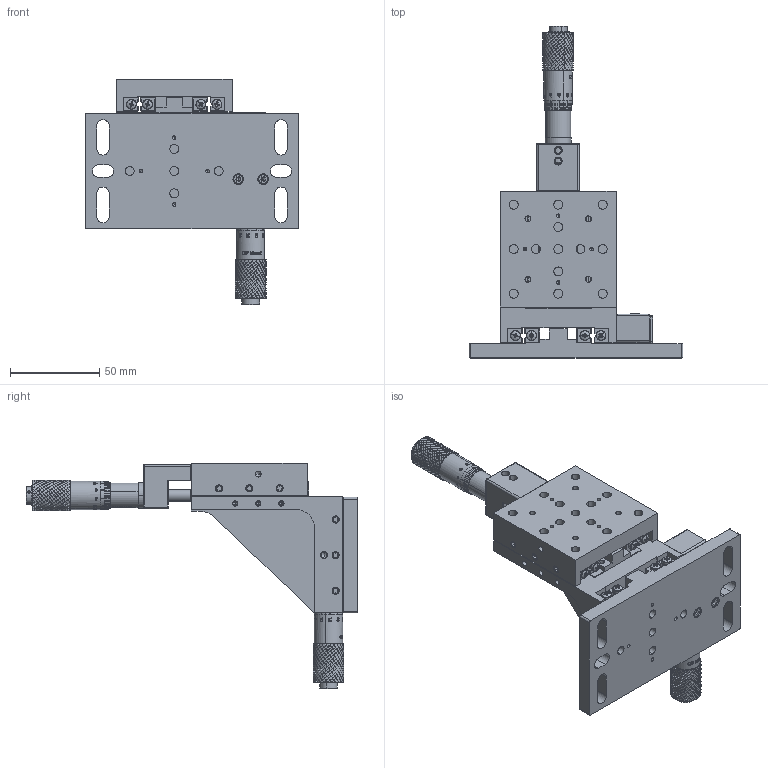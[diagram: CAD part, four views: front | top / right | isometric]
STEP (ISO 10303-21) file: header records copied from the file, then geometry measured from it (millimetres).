
FILE_DESCRIPTION (( 'STEP AP203' ), '1' );
FILE_NAME ('TSS65XZ-1.STEP', '2022-11-22T06:03:17', ( '¦K¬P' ), ( '' ), 'SwSTEP 2.0', 'SolidWorks 2019', '' );
FILE_SCHEMA (( 'CONFIG_CONTROL_DESIGN' ));
Length unit declared in the file: millimetre
Products named in the file (19): M3x0.5P無沉頭; socket head cap screw_am_B18.3.1M - 3 x 0.5 x 12 Hex SHCS -- 12NHX; pan cross head_am_B18.6.7M - M3 x 0.5 x 4 Type I Cross Recessed PHMS --4N; socket set screw flat point_am_B18.3.6M - M4 x 0.7 x 4 Hex Socket Flat Pt. SS --N; MER-25後管; TSS65-Z軸分厘卡座; TS65XZ底板; MER-25前管; ψ6X5.9L; TS65-Z軸面板; ψ8X1L; socket head cap screw_am_B18.3.1M - 3 x 0.5 x 8 Hex SHCS -- 8NHX; MIC墊環14.6x3.5T; TSS65XZ分厘卡座; TSS65頂點座; TSS65XZ-L塊; TSS65XZ-1; TSS65-滑軌; M3x0.5Px20L
Assembly tree (66 placements, depth 2):
  TSS65XZ-1
    TS65XZ底板
    TS65-Z軸面板
    TSS65XZ分厘卡座
    TSS65-滑軌  x8
    M3x0.5P無沉頭  x2
    pan cross head_am_B18.6.7M - M3 x 0.5 x 4 Type I Cross Recessed PHMS --4N  x16
    MER-25後管  x2
    MER-25前管  x2
    socket head cap screw_am_B18.3.1M - 3 x 0.5 x 8 Hex SHCS -- 8NHX  x8
    TSS65XZ-L塊
    ψ8X1L
    TSS65頂點座
    M3x0.5Px20L  x2
    socket head cap screw_am_B18.3.1M - 3 x 0.5 x 12 Hex SHCS -- 12NHX  x2
    socket set screw flat point_am_B18.3.6M - M4 x 0.7 x 4 Hex Socket Flat Pt. SS --N  x15
    TSS65-Z軸分厘卡座
    ψ6X5.9L
    MIC墊環14.6x3.5T
Bounding box: 120 x 186.37 x 126.47 mm (x, y, z)
Volume: 286865.7 mm3; surface area: 121905.1 mm2
Topology: 66 solids, 66 shells, 6964 faces, 18865 edges, 12240 vertices
Faces by surface type: bspline 2838, cylinder 1847, plane 1833, cone 338, torus 60, sphere 48
Entity records: 240294 total; most frequent: CARTESIAN_POINT 172099, ORIENTED_EDGE 17670, EDGE_CURVE 8835, DIRECTION 8446, VERTEX_POINT 5819, EDGE_LOOP 3542, FACE_OUTER_BOUND 3235, ADVANCED_FACE 3235
